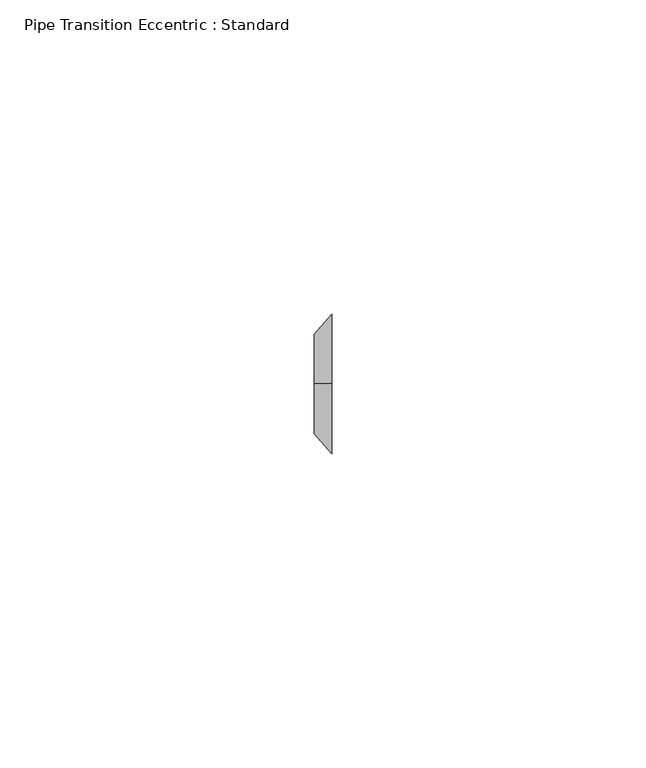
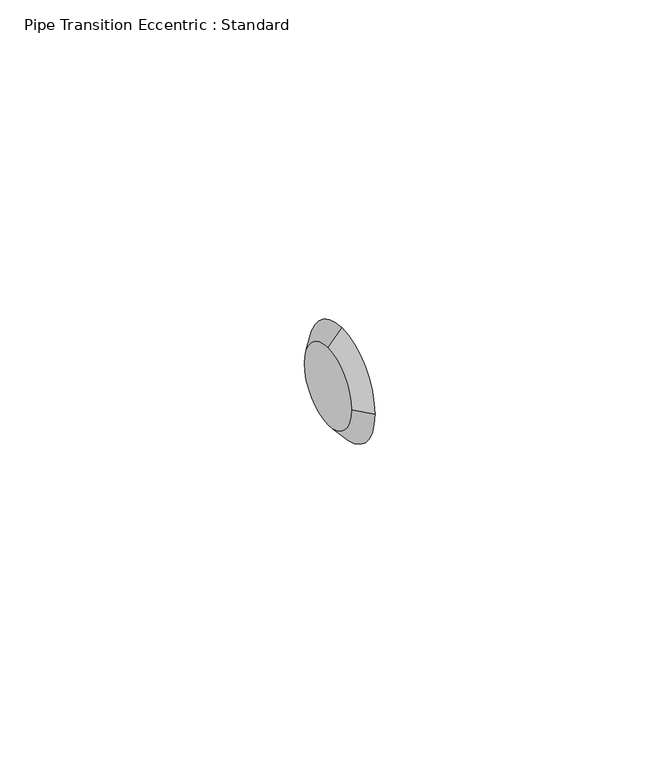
"""IFC4 building model written with IfcOpenShell, lengths in millimetres: pipe fitting geometry, Pipe Transition Eccentric : Standard."""

from ifc_helpers import new_model, si_unit, frame, origin, place, context, project, spatial, polyline, circle_curve, source, transform, mapped, element, save
from ifc_brep_helpers import plane_surface, revolved_surface, advanced_brep


def pipe_transition_eccentric_standard_a9eec213(model_context):
    return source(origin(), model_context, "Body", "AdvancedBrep", [
        advanced_brep(
        [(2.778125, 0.0, 11.1125), (2.778125, -11.1125, 0.0), (2.778125, 0.0, -11.1125), (2.778125, 11.1125, 0.0), (0.0, 0.0, 7.9375), (0.0, 7.9375, 0.0), (0.0, 0.0, -7.9375), (0.0, -7.9375, 0.0)],
        [
            (0, 1, circle_curve(frame((2.778125, 0.0, 0.0), z_axis=(1.0, 0.0, 0.0), x_axis=(0.0, 0.0, 1.0)), 11.1125)),
            (1, 2, circle_curve(frame((2.778125, 0.0, 0.0), z_axis=(1.0, 0.0, 0.0), x_axis=(0.0, -1.0, 0.0)), 11.1125)),
            (2, 3, circle_curve(frame((2.778125, 0.0, 0.0), z_axis=(1.0, 0.0, 0.0), x_axis=(0.0, 0.0, -1.0)), 11.1125)),
            (3, 0, circle_curve(frame((2.778125, 0.0, 0.0), z_axis=(1.0, 0.0, 0.0), x_axis=(0.0, 1.0, 0.0)), 11.1125)),
            (4, 5, circle_curve(frame((0.0, 0.0, 0.0), z_axis=(-1.0, 0.0, 0.0), x_axis=(0.0, 1.0, 0.0)), 7.9375)),
            (5, 6, circle_curve(frame((0.0, 0.0, 0.0), z_axis=(-1.0, 0.0, 0.0), x_axis=(0.0, 0.0, -1.0)), 7.9375)),
            (6, 7, circle_curve(frame((0.0, 0.0, 0.0), z_axis=(-1.0, 0.0, 0.0), x_axis=(0.0, -1.0, 0.0)), 7.9375)),
            (7, 4, circle_curve(frame((0.0, 0.0, 0.0), z_axis=(-1.0, 0.0, 0.0), x_axis=(0.0, 0.0, 1.0)), 7.9375)),
            (7, 1),
            (0, 4),
            (6, 2),
            (5, 3),
        ],
        [
            plane_surface(frame((2.778125, 0.0, 0.0), z_axis=(1.0, 0.0, 0.0), x_axis=(0.0, -1.0, 0.0))),
            plane_surface(frame((0.0, 0.0, 0.0), z_axis=(-1.0, 0.0, 0.0), x_axis=(0.0, -1.0, 0.0))),
            revolved_surface(polyline([(0.0, -7.937500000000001, 0.0), (2.7781249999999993, -11.1125, 0.0)]), (-6.9453125, 0.0, 0.0), (1.0, 0.0, 0.0)),
            revolved_surface(polyline([(0.0, 0.0, -7.937500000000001), (2.7781249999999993, 0.0, -11.1125)]), (-6.9453125, 0.0, 0.0), (1.0, 0.0, 0.0)),
            revolved_surface(polyline([(0.0, 7.937500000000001, 0.0), (2.7781249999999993, 11.1125, 0.0)]), (-6.9453125, 0.0, 0.0), (1.0, 0.0, 0.0)),
            revolved_surface(polyline([(0.0, 0.0, 7.937500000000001), (2.7781249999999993, 0.0, 11.1125)]), (-6.9453125, 0.0, 0.0), (1.0, 0.0, 0.0)),
        ],
        [
            (0, [[1, 2, 3, 4]]),
            (1, [[5, 6, 7, 8]]),
            (2, [[-8, 9, -1, 10]]),
            (3, [[-7, 11, -2, -9]]),
            (4, [[-6, 12, -3, -11]]),
            (5, [[-5, -10, -4, -12]]),
        ],
    ),
        advanced_brep(
        [(2.778125, 0.0, 11.1125), (2.778125, -11.1125, 0.0), (2.778125, 0.0, -11.1125), (2.778125, 11.1125, 0.0), (0.0, 0.0, 7.9375), (0.0, 7.9375, 0.0), (0.0, 0.0, -7.9375), (0.0, -7.9375, 0.0)],
        [
            (0, 1, circle_curve(frame((2.778125, 0.0, 0.0), z_axis=(1.0, 0.0, -3.1131495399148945e-12), x_axis=(3.113175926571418e-12, 0.0, 1.0)), 11.1125)),
            (1, 2, circle_curve(frame((2.778125, 0.0, 0.0), z_axis=(1.0, 0.0, -2.9913422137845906e-12), x_axis=(0.0, -1.0, 0.0)), 11.1125)),
            (2, 3, circle_curve(frame((2.778125, 0.0, 0.0), z_axis=(1.0, 0.0, -4.79491116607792e-12), x_axis=(-4.794937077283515e-12, 0.0, -1.0)), 11.1125)),
            (3, 0, circle_curve(frame((2.778125, 0.0, 0.0), z_axis=(1.0, 0.0, -1.0676069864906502e-12), x_axis=(0.0, 1.0, 0.0)), 11.1125)),
            (4, 5, circle_curve(frame((0.0, 0.0, 0.0), z_axis=(-1.0, 0.0, 1.0676069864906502e-12), x_axis=(0.0, 1.0, 0.0)), 7.9375)),
            (5, 6, circle_curve(frame((0.0, 0.0, 0.0), z_axis=(-1.0, 0.0, 4.79491116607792e-12), x_axis=(-4.794937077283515e-12, 0.0, -1.0)), 7.9375)),
            (6, 7, circle_curve(frame((0.0, 0.0, 0.0), z_axis=(-1.0, 0.0, 2.9913422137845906e-12), x_axis=(0.0, -1.0, 0.0)), 7.9375)),
            (7, 4, circle_curve(frame((0.0, 0.0, 0.0), z_axis=(-1.0, 0.0, 3.1131495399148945e-12), x_axis=(3.113175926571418e-12, 0.0, 1.0)), 7.9375)),
            (7, 1),
            (0, 4),
            (6, 2),
            (5, 3),
        ],
        [
            plane_surface(frame((2.778125, 0.0, 0.0), z_axis=(1.0, 0.0, 0.0), x_axis=(0.0, -1.0, 0.0))),
            plane_surface(frame((0.0, 0.0, 0.0), z_axis=(-1.0, 0.0, 0.0), x_axis=(0.0, -1.0, 0.0))),
            revolved_surface(polyline([(-2.4710899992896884e-11, -7.93749999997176, 0.0), (2.7781249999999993, -11.1125, 0.0)]), (-6.9453125, 0.0, 0.0), (1.0, 0.0, -3.1131495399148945e-12)),
            revolved_surface(polyline([(-2.3743673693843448e-11, 0.0, -7.937499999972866), (2.7781249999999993, 0.0, -11.1125)]), (-6.9453125, 0.0, 0.0), (1.0, 0.0, -2.9913422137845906e-12)),
            revolved_surface(polyline([(0.0, 7.937500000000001, 0.0), (2.778125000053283, 11.112500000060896, 0.0)]), (-6.9453125, 0.0, 0.0), (1.0, 0.0, -4.79491116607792e-12)),
            revolved_surface(polyline([(8.881784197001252e-16, 0.0, 7.937500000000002), (2.7781250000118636, 0.0, 11.11250000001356)]), (-6.9453125, 0.0, 0.0), (1.0, 0.0, -1.0676069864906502e-12)),
        ],
        [
            (0, [[1, 2, 3, 4]]),
            (1, [[5, 6, 7, 8]]),
            (2, [[-8, 9, -1, 10]]),
            (3, [[-7, 11, -2, -9]]),
            (4, [[-6, 12, -3, -11]]),
            (5, [[-5, -10, -4, -12]]),
        ],
    ),
    ])


if __name__ == "__main__":
    model = new_model("IFC4")
    model_context = context("Model", 3, world=origin())
    ifc_project = project(units=[si_unit("LENGTHUNIT", "METRE", prefix="MILLI")], contexts=[model_context])
    site = spatial("IfcSite", under=ifc_project)
    building = spatial("IfcBuilding", under=site)
    placement = place(None, origin())
    pipe_transition_eccentric_standard_shape = pipe_transition_eccentric_standard_a9eec213(model_context)
    element("IfcPipeFitting", 1, ObjectType="Pipe Transition Eccentric : Standard", at=placement, inside=building, context=model_context, shape_type="MappedRepresentation", body=[
        mapped(pipe_transition_eccentric_standard_shape, transform((0.0, 0.0, 0.0), x_axis=(1.0, 0.0, 0.0), y_axis=(0.0, 1.0, 0.0), z_axis=(0.0, 0.0, 1.0))),
    ])
    save(model, "model.ifc")
